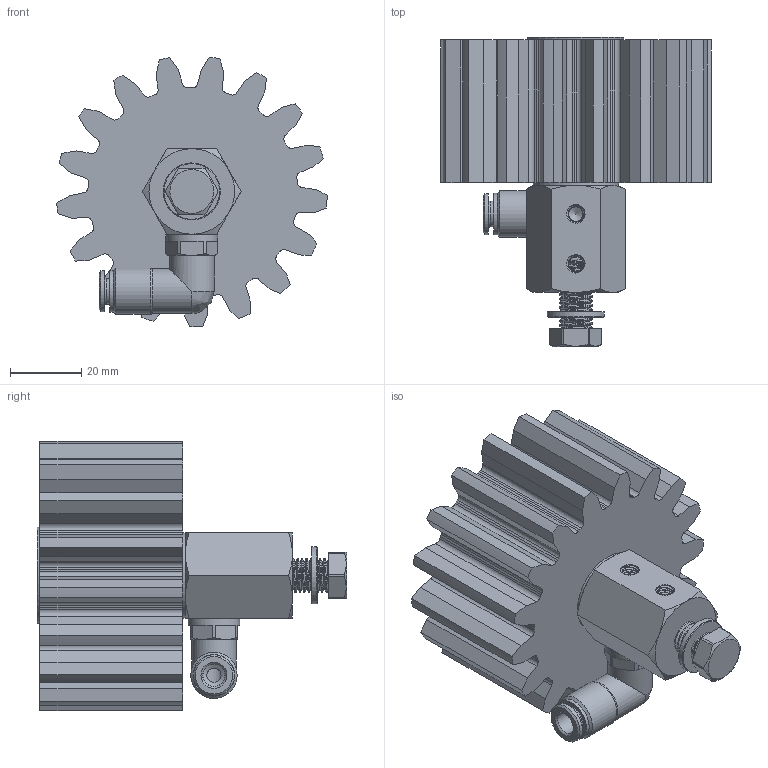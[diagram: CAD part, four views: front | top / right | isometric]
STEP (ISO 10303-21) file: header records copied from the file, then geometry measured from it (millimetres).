
FILE_DESCRIPTION (( 'STEP AP214' ), '1' );
FILE_NAME ('012_13_04_40_17BZ.STEP', '2026-04-08T11:52:33', ( '' ), ( '' ), 'SwSTEP 2.0', 'SolidWorks 2022', '' );
FILE_SCHEMA (( 'AUTOMOTIVE_DESIGN' ));
Length unit declared in the file: millimetre
Products named in the file (13): OR 7.2X1.9_1; RIVOLUZIONE_0_2; RH202242; 012_13_04_40_17BZ; 012_13b_01_winklige_Achse_lang_M8_1; Schraube_M8_20; 12012_06_01_Scheibe-CRS-VA_27.SLDASM; 012_06_Senkschraube; 12012_06_00_Scheibe-CRS-VA.SLDASM; DR6-C_HDX_25.07.16_1; U_Scheibe_8,4; Schmierzahnrad_04_40_17G; H202242_HDS022_6_M10X1_08.05.17(1)
Assembly tree (12 placements, depth 3):
  012_13_04_40_17BZ
    012_13b_01_winklige_Achse_lang_M8_1
    Schraube_M8_20
    U_Scheibe_8,4
    H202242_HDS022_6_M10X1_08.05.17(1)
      OR 7.2X1.9_1
      RH202242
      DR6-C_HDX_25.07.16_1
      RIVOLUZIONE_0_2
    12012_06_00_Scheibe-CRS-VA.SLDASM
    Schmierzahnrad_04_40_17G
    12012_06_01_Scheibe-CRS-VA_27.SLDASM
    012_06_Senkschraube
Bounding box: 75.86 x 86.9 x 75.7 mm (x, y, z)
Volume: 164223 mm3; surface area: 37598 mm2
Topology: 11 solids, 11 shells, 700 faces, 1911 edges, 1267 vertices
Faces by surface type: plane 420, bspline 116, cylinder 107, cone 54, torus 3
Full cylindrical faces by diameter (mm): 3 x1, 4 x2, 5.5 x1, 6 x1, 6.2 x1, 6.3 x1, 6.5 x1, 7.2 x1, 8.4 x1, 8.5 x1, 9 x10, 9.9 x1, 10 x3, 10.1 x2, 10.3 x1, 11.5 x1, 11.7 x1, 12.5 x2, 13 x1, 14.5 x1, 16 x1, 24 x1, 27 x1
Entity records: 44016 total; most frequent: CARTESIAN_POINT 26665, ORIENTED_EDGE 3526, DIRECTION 2825, EDGE_CURVE 1763, VERTEX_POINT 1202, VECTOR 1147, LINE 1147, AXIS2_PLACEMENT_3D 839
